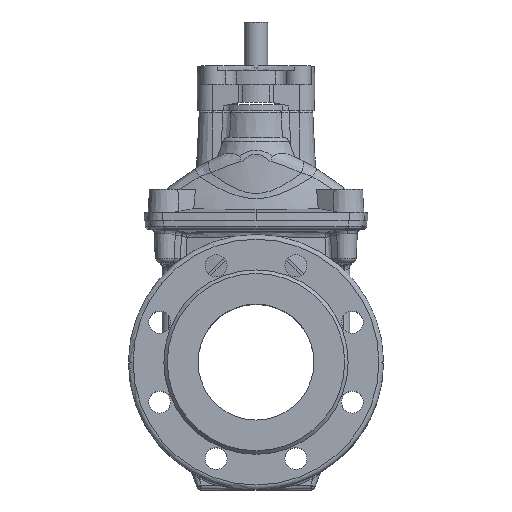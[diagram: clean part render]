
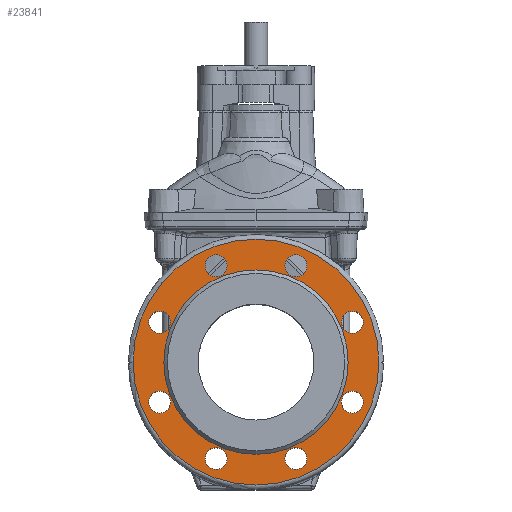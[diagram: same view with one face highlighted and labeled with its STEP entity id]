
A CAD part, top view. The second image highlights one B-rep face of the part: STEP entity #23841.
In plain terms, the highlighted planar face has unit normal (0, 0, 1).
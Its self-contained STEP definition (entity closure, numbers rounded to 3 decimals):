
#56 = CIRCLE ( 'NONE', #23724, 9.5 ) ;
#214 = FACE_BOUND ( 'NONE', #4802, .T. ) ;
#593 = CARTESIAN_POINT ( 'NONE',  ( 34.442, -83.149, 92. ) ) ;
#780 = EDGE_CURVE ( 'NONE', #23178, #23178, #11121, .T. ) ;
#957 = CARTESIAN_POINT ( 'NONE',  ( -73.649, -34.442, 92. ) ) ;
#1350 = EDGE_CURVE ( 'NONE', #19268, #19268, #4566, .T. ) ;
#1708 = CARTESIAN_POINT ( 'NONE',  ( -83.149, 34.442, 92. ) ) ;
#1878 = ORIENTED_EDGE ( 'NONE', *, *, #12311, .F. ) ;
#1973 = EDGE_CURVE ( 'NONE', #25205, #25205, #2431, .T. ) ;
#2361 = FACE_BOUND ( 'NONE', #17312, .T. ) ;
#2431 = CIRCLE ( 'NONE', #22228, 9.5 ) ;
#2953 = AXIS2_PLACEMENT_3D ( 'NONE', #17416, #7200, #25639 ) ;
#3146 = CARTESIAN_POINT ( 'NONE',  ( -34.442, 83.149, 92. ) ) ;
#3505 = VERTEX_POINT ( 'NONE', #7697 ) ;
#3670 = EDGE_CURVE ( 'NONE', #21030, #21030, #20366, .T. ) ;
#4291 = DIRECTION ( 'NONE',  ( -1., 0., 0. ) ) ;
#4326 = DIRECTION ( 'NONE',  ( 0., 0., 1. ) ) ;
#4566 = CIRCLE ( 'NONE', #20043, 9.5 ) ;
#4706 = CARTESIAN_POINT ( 'NONE',  ( 83.149, -34.442, 92. ) ) ;
#4802 = EDGE_LOOP ( 'NONE', ( #1878 ) ) ;
#5646 = DIRECTION ( 'NONE',  ( -1., 0., 0. ) ) ;
#5856 = DIRECTION ( 'NONE',  ( 1., 0., 0. ) ) ;
#6553 = DIRECTION ( 'NONE',  ( 0., 0., 1. ) ) ;
#6806 = DIRECTION ( 'NONE',  ( -1., 0., 0. ) ) ;
#7134 = EDGE_LOOP ( 'NONE', ( #19815 ) ) ;
#7200 = DIRECTION ( 'NONE',  ( 0., 0., 1. ) ) ;
#7430 = CARTESIAN_POINT ( 'NONE',  ( 79.5, 0., 92. ) ) ;
#7533 = ORIENTED_EDGE ( 'NONE', *, *, #22639, .T. ) ;
#7676 = EDGE_CURVE ( 'NONE', #9469, #9469, #17055, .T. ) ;
#7697 = CARTESIAN_POINT ( 'NONE',  ( -24.942, -83.149, 92. ) ) ;
#8162 = AXIS2_PLACEMENT_3D ( 'NONE', #3146, #21446, #23211 ) ;
#8495 = CARTESIAN_POINT ( 'NONE',  ( 73.649, 34.442, 92. ) ) ;
#8579 = FACE_BOUND ( 'NONE', #22502, .T. ) ;
#9190 = CARTESIAN_POINT ( 'NONE',  ( 73.649, -34.442, 92. ) ) ;
#9469 = VERTEX_POINT ( 'NONE', #7430 ) ;
#9711 = EDGE_LOOP ( 'NONE', ( #7533 ) ) ;
#10207 = FACE_BOUND ( 'NONE', #17372, .T. ) ;
#10221 = DIRECTION ( 'NONE',  ( 0., 0., 1. ) ) ;
#10234 = DIRECTION ( 'NONE',  ( 0., 0., 1. ) ) ;
#10607 = FACE_BOUND ( 'NONE', #9711, .T. ) ;
#10739 = EDGE_LOOP ( 'NONE', ( #26088 ) ) ;
#10949 = CARTESIAN_POINT ( 'NONE',  ( 24.942, 83.149, 92. ) ) ;
#11121 = CIRCLE ( 'NONE', #18860, 9.5 ) ;
#11746 = CARTESIAN_POINT ( 'NONE',  ( 106., 0., 92. ) ) ;
#12311 = EDGE_CURVE ( 'NONE', #3505, #3505, #26584, .T. ) ;
#12747 = PLANE ( 'NONE',  #20782 ) ;
#12938 = DIRECTION ( 'NONE',  ( 0., 0., -1. ) ) ;
#13882 = CARTESIAN_POINT ( 'NONE',  ( 24.942, -83.149, 92. ) ) ;
#14062 = AXIS2_PLACEMENT_3D ( 'NONE', #22129, #20244, #5856 ) ;
#14186 = CIRCLE ( 'NONE', #8162, 9.5 ) ;
#14192 = EDGE_LOOP ( 'NONE', ( #21711 ) ) ;
#14448 = ORIENTED_EDGE ( 'NONE', *, *, #18683, .T. ) ;
#14897 = EDGE_CURVE ( 'NONE', #17915, #17915, #14186, .T. ) ;
#15073 = ORIENTED_EDGE ( 'NONE', *, *, #14897, .F. ) ;
#15626 = CARTESIAN_POINT ( 'NONE',  ( -24.942, 83.149, 92. ) ) ;
#16069 = EDGE_LOOP ( 'NONE', ( #22232 ) ) ;
#16428 = CIRCLE ( 'NONE', #17725, 106. ) ;
#16706 = DIRECTION ( 'NONE',  ( 1., 0., 0. ) ) ;
#16763 = CARTESIAN_POINT ( 'NONE',  ( 0., 79.5, 92. ) ) ;
#17019 = DIRECTION ( 'NONE',  ( 0., 0., -1. ) ) ;
#17055 = CIRCLE ( 'NONE', #14062, 79.5 ) ;
#17312 = EDGE_LOOP ( 'NONE', ( #15073 ) ) ;
#17372 = EDGE_LOOP ( 'NONE', ( #18117 ) ) ;
#17416 = CARTESIAN_POINT ( 'NONE',  ( -34.442, -83.149, 92. ) ) ;
#17719 = AXIS2_PLACEMENT_3D ( 'NONE', #22061, #21925, #5646 ) ;
#17725 = AXIS2_PLACEMENT_3D ( 'NONE', #18287, #10234, #18417 ) ;
#17915 = VERTEX_POINT ( 'NONE', #15626 ) ;
#18117 = ORIENTED_EDGE ( 'NONE', *, *, #1973, .F. ) ;
#18260 = DIRECTION ( 'NONE',  ( 1., 0., 0. ) ) ;
#18287 = CARTESIAN_POINT ( 'NONE',  ( 0., 0., 92. ) ) ;
#18417 = DIRECTION ( 'NONE',  ( 1., 0., 0. ) ) ;
#18475 = CARTESIAN_POINT ( 'NONE',  ( -83.149, -34.442, 92. ) ) ;
#18671 = FACE_BOUND ( 'NONE', #14192, .T. ) ;
#18683 = EDGE_CURVE ( 'NONE', #26259, #26259, #56, .T. ) ;
#18797 = FACE_BOUND ( 'NONE', #23935, .T. ) ;
#18860 = AXIS2_PLACEMENT_3D ( 'NONE', #22733, #26378, #4291 ) ;
#19268 = VERTEX_POINT ( 'NONE', #957 ) ;
#19516 = EDGE_CURVE ( 'NONE', #19806, #19806, #16428, .T. ) ;
#19806 = VERTEX_POINT ( 'NONE', #11746 ) ;
#19815 = ORIENTED_EDGE ( 'NONE', *, *, #7676, .F. ) ;
#20043 = AXIS2_PLACEMENT_3D ( 'NONE', #18475, #4326, #16706 ) ;
#20244 = DIRECTION ( 'NONE',  ( 0., 0., 1. ) ) ;
#20366 = CIRCLE ( 'NONE', #21231, 9.5 ) ;
#20408 = FACE_OUTER_BOUND ( 'NONE', #16069, .T. ) ;
#20654 = ORIENTED_EDGE ( 'NONE', *, *, #3670, .T. ) ;
#20782 = AXIS2_PLACEMENT_3D ( 'NONE', #16763, #6553, #18260 ) ;
#21007 = DIRECTION ( 'NONE',  ( -1., 0., 0. ) ) ;
#21030 = VERTEX_POINT ( 'NONE', #9190 ) ;
#21231 = AXIS2_PLACEMENT_3D ( 'NONE', #4706, #12938, #21007 ) ;
#21446 = DIRECTION ( 'NONE',  ( 0., 0., 1. ) ) ;
#21686 = VERTEX_POINT ( 'NONE', #8495 ) ;
#21711 = ORIENTED_EDGE ( 'NONE', *, *, #1350, .F. ) ;
#21925 = DIRECTION ( 'NONE',  ( 0., 0., -1. ) ) ;
#22061 = CARTESIAN_POINT ( 'NONE',  ( 83.149, 34.442, 92. ) ) ;
#22129 = CARTESIAN_POINT ( 'NONE',  ( 0., 0., 92. ) ) ;
#22228 = AXIS2_PLACEMENT_3D ( 'NONE', #1708, #10221, #24207 ) ;
#22232 = ORIENTED_EDGE ( 'NONE', *, *, #19516, .T. ) ;
#22502 = EDGE_LOOP ( 'NONE', ( #14448 ) ) ;
#22639 = EDGE_CURVE ( 'NONE', #21686, #21686, #25057, .T. ) ;
#22733 = CARTESIAN_POINT ( 'NONE',  ( 34.442, 83.149, 92. ) ) ;
#22827 = FACE_BOUND ( 'NONE', #10739, .T. ) ;
#23041 = CARTESIAN_POINT ( 'NONE',  ( -73.649, 34.442, 92. ) ) ;
#23178 = VERTEX_POINT ( 'NONE', #10949 ) ;
#23211 = DIRECTION ( 'NONE',  ( 1., 0., 0. ) ) ;
#23724 = AXIS2_PLACEMENT_3D ( 'NONE', #593, #17019, #6806 ) ;
#23841 = ADVANCED_FACE ( 'NONE', ( #2361, #10207, #18671, #214, #22827, #10607, #18797, #8579, #20408, #24461 ), #12747, .T. ) ;
#23935 = EDGE_LOOP ( 'NONE', ( #20654 ) ) ;
#24207 = DIRECTION ( 'NONE',  ( 1., 0., 0. ) ) ;
#24461 = FACE_BOUND ( 'NONE', #7134, .T. ) ;
#25057 = CIRCLE ( 'NONE', #17719, 9.5 ) ;
#25205 = VERTEX_POINT ( 'NONE', #23041 ) ;
#25639 = DIRECTION ( 'NONE',  ( 1., 0., 0. ) ) ;
#26088 = ORIENTED_EDGE ( 'NONE', *, *, #780, .T. ) ;
#26259 = VERTEX_POINT ( 'NONE', #13882 ) ;
#26378 = DIRECTION ( 'NONE',  ( 0., 0., -1. ) ) ;
#26584 = CIRCLE ( 'NONE', #2953, 9.5 ) ;
